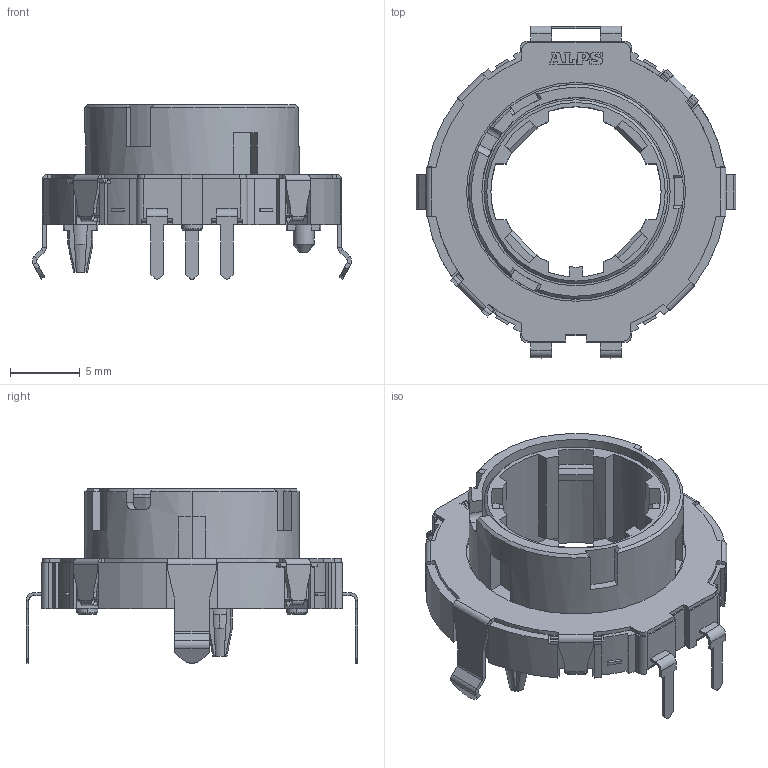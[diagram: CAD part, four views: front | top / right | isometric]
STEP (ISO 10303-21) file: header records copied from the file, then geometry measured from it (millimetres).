
FILE_DESCRIPTION (( 'STEP AP214' ), '1' );
FILE_NAME ('EC21A0920401_.STEP', '2026-01-08T23:54:46', ( '' ), ( '' ), 'SwSTEP 2.0', 'SolidWorks 2025', '' );
FILE_SCHEMA (( 'AUTOMOTIVE_DESIGN' ));
Length unit declared in the file: millimetre
Products named in the file (1): EC21A0920401_
Bounding box: 22.9 x 23.8 x 12.5 mm (x, y, z)
Volume: 1215.2 mm3; surface area: 2124.7 mm2
Topology: 1 solids, 1 shells, 819 faces, 2206 edges, 1391 vertices
Faces by surface type: plane 557, cylinder 217, bspline 28, cone 17
Entity records: 33843 total; most frequent: CARTESIAN_POINT 5595, ORIENTED_EDGE 4412, DIRECTION 4121, EDGE_CURVE 2206, LINE 1551, VECTOR 1551, VERTEX_POINT 1391, AXIS2_PLACEMENT_3D 1285
